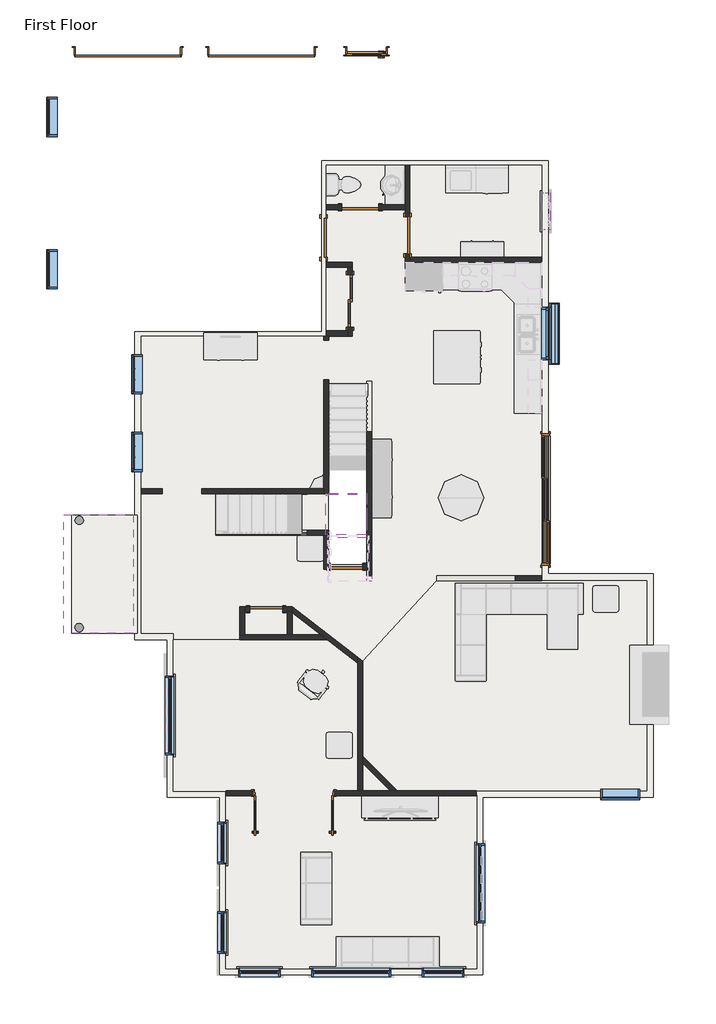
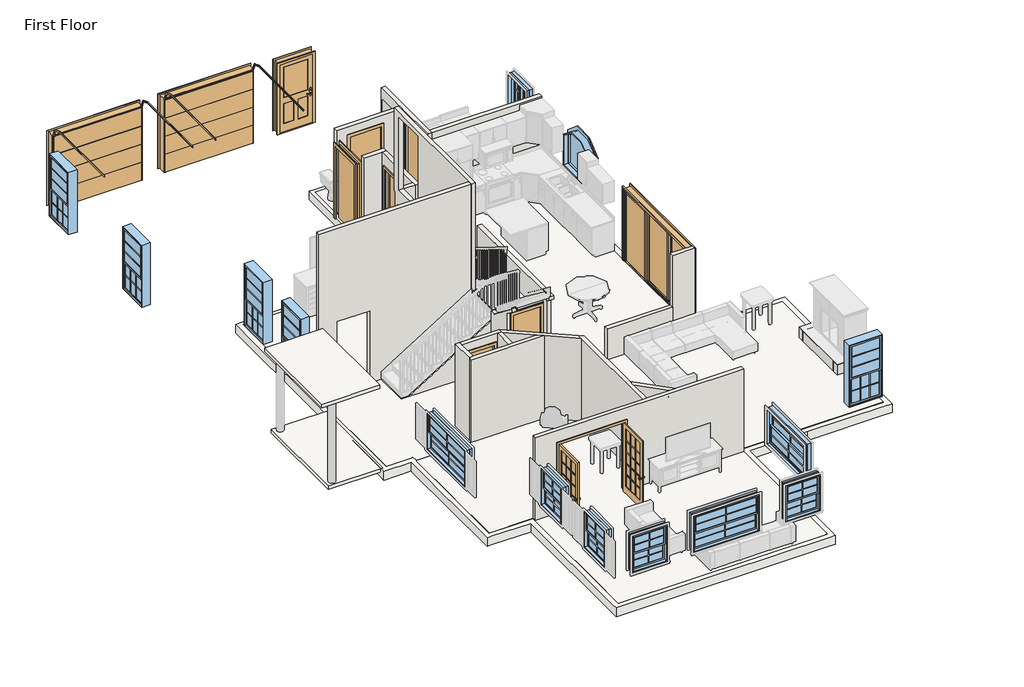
# One storey, part 1 of 3: 26 walls, 14 windows, 11 doors, 8 slabs.
"""IFC4 building model written with IfcOpenShell, lengths in millimetres."""

from ifc_helpers import new_model, si_unit, frame, origin, origin_with_axes, place, context, project, spatial, polyline, outline, extrude, faceted_brep, transform, mapped, element, save
from components import door_a3c49eca, door_e74c17d9, parametric_sliding_door_multi_panel_22902_parametric_sliding_059a3eb5, door_9bace64e, door_f2b275c1, door_214872d5, door_70e57c00, door_805e9a83, door_900f836f, window_96_lite_window_with_shutters_3850_single_hung_3x3_51791338, arched_window_1167_3_x_4_14e1a2af, window_2368842e, window_ea18a626, window_64dbae8b

model = new_model("IFC4")

# Units and contexts
model_context = context("Model", 3, world=origin())
ifc_project = project(units=[si_unit("LENGTHUNIT", "METRE", prefix="MILLI")], contexts=[model_context])

# Site, building, storey
site = spatial("IfcSite", under=ifc_project)
building = spatial("IfcBuilding", under=site)
storey = spatial("IfcBuildingStorey", under=building, Name="First Floor", Elevation=0.0)

# Doors
placement = place(None, origin())
door_shape = door_a3c49eca(model_context)
element("IfcDoor", 1, ObjectType="Door-Exterior-Single-Entry-Half Flat Glass-Wood_Clad : 36\" x 80\"", at=placement, inside=storey, context=model_context, shape_type="MappedRepresentation", body=[
    mapped(door_shape, transform((-5319.1230992, 10169.3047697, 0.0), x_axis=(1.0, 0.0, 0.0), y_axis=(0.0, 1.0, 0.0), z_axis=(0.0, 0.0, 1.0))),
])
door_2_shape = door_e74c17d9(model_context)
element("IfcDoor", 2, ObjectType="Door-Garage-Flush_Panel : 96\" x 84\"", at=placement, inside=storey, context=model_context, shape_type="MappedRepresentation", body=[
    mapped(door_2_shape, transform((-7757.5230992, 10175.6547697, 0.0), x_axis=(1.0, 0.0, 0.0), y_axis=(0.0, 1.0, 0.0), z_axis=(0.0, 0.0, 1.0))),
])
element("IfcDoor", 3, ObjectType="Door-Garage-Flush_Panel : 96\" x 84\"", at=placement, inside=storey, context=model_context, shape_type="MappedRepresentation", body=[
    mapped(door_2_shape, transform((-10856.3230992, 10175.6547697, 0.0), x_axis=(1.0, 0.0, 0.0), y_axis=(0.0, 1.0, 0.0), z_axis=(0.0, 0.0, 1.0))),
])
parametric_sliding_door_multi_panel_22902_parametric_sliding_shape = parametric_sliding_door_multi_panel_22902_parametric_sliding_059a3eb5(model_context)
element("IfcDoor", 4, ObjectType="Parametric_Sliding_Door_Multi_Panel_22902 : Parametric_Sliding_Door_Multi_Panel_22902", at=placement, inside=storey, context=model_context, shape_type="MappedRepresentation", body=[
    mapped(parametric_sliding_door_multi_panel_22902_parametric_sliding_shape, transform((-1164.6355992, 769.5922697, 0.0), x_axis=(0.0, -1.0, 0.0), y_axis=(1.0, 0.0, 0.0), z_axis=(0.0, 0.0, 1.0))),
])
door_3_shape = door_9bace64e(model_context)
element("IfcDoor", 5, ObjectType="Revit_Stock_Interior_Dbl_Doors_Static_Open_18925 : 60\" x 80\"", at=placement, inside=storey, context=model_context, shape_type="MappedRepresentation", body=[
    mapped(door_3_shape, transform((-7005.8418492, -7047.1327303, 0.0), x_axis=(-1.0, 0.0, 0.0), y_axis=(0.0, -1.0, 0.0), z_axis=(0.0, 0.0, 1.0))),
])
door_4_shape = door_f2b275c1(model_context)
element("IfcDoor", 6, ObjectType="Single-Flush : 30\" x 80\"", at=placement, inside=storey, context=model_context, shape_type="MappedRepresentation", body=[
    mapped(door_4_shape, transform((-5785.8480992, -1786.1577303, 0.0), x_axis=(1.0, 0.0, 0.0), y_axis=(0.0, 1.0, 0.0), z_axis=(0.0, 0.0, 1.0))),
])
door_5_shape = door_214872d5(model_context)
element("IfcDoor", 7, ObjectType="Single-Flush : 30\" x 84\"", at=placement, inside=storey, context=model_context, shape_type="MappedRepresentation", body=[
    mapped(door_5_shape, transform((-7649.5730992, -2771.9952303, 0.0), x_axis=(1.0, 0.0, 0.0), y_axis=(0.0, 1.0, 0.0), z_axis=(0.0, 0.0, 1.0))),
])
door_6_shape = door_70e57c00(model_context)
element("IfcDoor", 8, ObjectType="Single-Flush : 34\" x 84\"", at=placement, inside=storey, context=model_context, shape_type="MappedRepresentation", body=[
    mapped(door_6_shape, transform((-5463.5855992, 6551.3922697, 0.0), x_axis=(-1.0, 0.0, 0.0), y_axis=(0.0, -1.0, 0.0), z_axis=(0.0, 0.0, 1.0))),
])
element("IfcDoor", 9, ObjectType="Single-Flush : 34\" x 84\"", at=placement, inside=storey, context=model_context, shape_type="MappedRepresentation", body=[
    mapped(door_6_shape, transform((-4369.7980992, 5902.1047697, 0.0), x_axis=(0.0, -1.0, 0.0), y_axis=(1.0, 0.0, 0.0), z_axis=(0.0, 0.0, 1.0))),
])
door_7_shape = door_805e9a83(model_context)
element("IfcDoor", 10, ObjectType="Single-Flush : 36\" x 84\"", at=placement, inside=storey, context=model_context, shape_type="MappedRepresentation", body=[
    mapped(door_7_shape, transform((-6316.0730992, 5844.9547697, 0.0), x_axis=(0.0, 1.0, 0.0), y_axis=(-1.0, 0.0, 0.0), z_axis=(0.0, 0.0, 1.0))),
])
door_8_shape = door_900f836f(model_context)
element("IfcDoor", 11, ObjectType="Sliding-Closet : 48\" x 80\"", at=placement, inside=storey, context=model_context, shape_type="MappedRepresentation", body=[
    mapped(door_8_shape, transform((-5830.2980992, 4379.6922697, 0.0), x_axis=(0.0, -1.0, 0.0), y_axis=(1.0, 0.0, 0.0), z_axis=(0.0, 0.0, 1.0))),
])

# Slabs
element("IfcSlab", 12, ObjectType="Beige Carpet", at=placement, inside=storey, context=model_context, shape_type="SweptSolid", body=[
    extrude(outline(polyline([(1183.2769008, -2110.0077303), (1183.2769008, -6986.8077303), (-4609.0229733, -6986.8077303), (-5408.0230992, -6187.8076044), (-5408.0230992, -3978.1689749), (-3693.5230992, -2110.0077303), (1183.2769008, -2110.0077303)])), origin_with_axes(), (0.0, 0.0, 1.0), 6.35),
])
element("IfcSlab", 13, ObjectType="Beige Carpet", at=placement, inside=storey, context=model_context, shape_type="SweptSolid", body=[
    extrude(outline(polyline([(-6214.4730992, -1044.7952303), (-6263.2412574, -1044.7952303), (-6263.2412574, -93.8827303), (-6201.7730992, -93.8827303), (-6201.7730992, -82.7702303), (-5312.7730992, -82.7702303), (-5312.7730992, -1114.6452303), (-6214.4730992, -1114.6452303), (-6214.4730992, -1044.7952303)])), frame((0.0, 0.0, 1716.2859375), z_axis=(0.0, 0.0, 1.0), x_axis=(1.0, 0.0, 0.0)), (0.0, 0.0, 1.0), 6.35),
])
element("IfcSlab", 14, ObjectType="Beige Carpet", at=placement, inside=storey, context=model_context, shape_type="Brep", body=[
    faceted_brep([(-2766.4230992, -11114.3077303, 0.0), (-2779.1230992, -11114.3077303, 0.0), (-8583.0230992, -11114.3077303, 0.0), (-8583.0230992, -11101.6077303, 0.0), (-8583.0230992, -6999.5077303, 0.0), (-8751.2980992, -6999.5077303, 0.0), (-9789.5230992, -6999.5077303, 0.0), (-9802.2230992, -6999.5077303, 0.0), (-9802.2230992, -3510.1827303, 0.0), (-9802.2230992, -3483.1952303, 0.0), (-6237.2691234, -3483.1952303, 0.0), (-5522.3230992, -4034.3743834, 0.0), (-5522.3230992, -6986.8077303, 0.0), (-5522.3230992, -7088.4077303, 0.0), (-2779.1230992, -7088.4077303, 0.0), (-2766.4230992, -7088.4077303, 0.0), (-2766.4230992, -11114.3077303, 6.35), (-2766.4230992, -7088.4077303, 6.35), (-2779.1230992, -7088.4077303, 6.35), (-5522.3230992, -7088.4077303, 6.35), (-5522.3230992, -6986.8077303, 6.35), (-5522.3230992, -4034.3743834, 6.35), (-6237.2691234, -3483.1952303, 6.35), (-9802.2230992, -3483.1952303, 6.35), (-9802.2230992, -3510.1827303, 6.35), (-9802.2230992, -6999.5077303, 6.35), (-9789.5230992, -6999.5077303, 6.35), (-8751.2980992, -6999.5077303, 6.35), (-8583.0230992, -6999.5077303, 6.35), (-8583.0230992, -11101.6077303, 6.35), (-8583.0230992, -11114.3077303, 6.35), (-2779.1230992, -11114.3077303, 6.35)], [[[0, 1, 2, 3, 4, 5, 6, 7, 8, 9, 10, 11, 12, 13, 14, 15]], [[16, 17, 18, 19, 20, 21, 22, 23, 24, 25, 26, 27, 28, 29, 30, 31]], [[2, 1, 0, 16, 31, 30]], [[4, 3, 2, 30, 29, 28]], [[7, 6, 5, 4, 28, 27, 26, 25]], [[9, 8, 7, 25, 24, 23]], [[10, 9, 23, 22]], [[11, 10, 22, 21]], [[13, 12, 11, 21, 20, 19]], [[15, 14, 13, 19, 18, 17]], [[0, 15, 17, 16]]]),
])
element("IfcSlab", 15, ObjectType="Concrete Slab - 4\"", at=placement, inside=storey, context=model_context, shape_type="SweptSolid", body=[
    extrude(outline(polyline([(-12166.0105992, -3332.3827303), (-12166.0105992, -589.1827303), (-10642.0105992, -589.1827303), (-10642.0105992, -3332.3827303), (-12166.0105992, -3332.3827303)])), frame((0.0, 0.0, -101.6), z_axis=(0.0, 0.0, 1.0), x_axis=(1.0, 0.0, 0.0)), (0.0, 0.0, 1.0), 101.6),
])
element("IfcSlab", 16, ObjectType="Hardwood", at=placement, inside=storey, context=model_context, shape_type="SweptSolid", body=[
    extrude(outline(polyline([(-1255.1230992, 7522.9422697), (-1255.1230992, -1995.7077303), (-3693.5230992, -1995.7077303), (-3693.5230992, -2110.0077303), (-5408.0230992, -3978.1689749), (-6050.0639108, -3483.1952303), (-8265.5230992, -3483.1952303), (-9789.5230992, -3483.1952303), (-9789.5230992, -3329.2077303), (-10551.5230992, -3329.2077303), (-10551.5230992, 3560.5422697), (-6255.7480992, 3560.5422697), (-6255.7480992, 7522.9422697), (-1255.1230992, 7522.9422697)]), holes=[polyline([(-5198.4730992, 2457.2297697), (-6201.7730992, 2457.2297697), (-6201.7730992, -108.1702303), (-8822.2912574, -108.1702303), (-8822.2912574, -1057.4952303), (-6316.0730992, -1057.4952303), (-6316.0730992, -1843.3077303), (-5312.7730992, -1843.3077303), (-5312.7730992, -1995.7077303), (-5198.4730992, -1995.7077303), (-5198.4730992, 2457.2297697)])]), origin_with_axes(), (0.0, 0.0, 1.0), 6.35),
])
element("IfcSlab", 17, ObjectType="Siding Ceiling", at=placement, inside=storey, context=model_context, shape_type="SweptSolid", body=[
    extrude(outline(polyline([(-12343.8105992, -589.1827303), (-10732.4980992, -589.1827303), (-10732.4980992, -3332.3827303), (-12343.8105992, -3332.3827303), (-12343.8105992, -589.1827303)])), frame((0.0, 0.0, 2362.2), z_axis=(0.0, 0.0, 1.0), x_axis=(1.0, 0.0, 0.0)), (0.0, 0.0, 1.0), 101.6),
])
element("IfcSlab", 18, ObjectType="Wood Joist 10\" - No Finish", at=placement, inside=storey, context=model_context, shape_type="Brep", body=[
    faceted_brep([(-10703.9230992, 3665.3172697, -254.0), (-10551.5230992, 3665.3172697, -254.0), (-6360.5230992, 3665.3172697, -254.0), (-6360.5230992, 3681.1922697, -254.0), (-6360.5230992, 7627.7172697, -254.0), (-6255.7480992, 7627.7172697, -254.0), (-1255.1230992, 7627.7172697, -254.0), (-1102.7230992, 7627.7172697, -254.0), (-1102.7230992, -1929.0327303, -254.0), (-1102.7230992, -1957.6077303, -254.0), (1335.6769008, -1957.6077303, -254.0), (1335.6769008, -2110.0077303, -254.0), (1335.6769008, -7139.2077303, -254.0), (1183.2769008, -7139.2077303, -254.0), (-1016.9980992, -7139.2077303, -254.0), (-1164.6355992, -7139.2077303, -254.0), (-2598.1480992, -7139.2077303, -254.0), (-2626.7230992, -7139.2077303, -254.0), (-2626.7230992, -11254.0077303, -254.0), (-2779.1230992, -11254.0077303, -254.0), (-8722.7230992, -11254.0077303, -254.0), (-8722.7230992, -11101.6077303, -254.0), (-8722.7230992, -7139.2077303, -254.0), (-8751.2980992, -7139.2077303, -254.0), (-9789.5230992, -7139.2077303, -254.0), (-9941.9230992, -7139.2077303, -254.0), (-9941.9230992, -3510.1827303, -254.0), (-9941.9230992, -3481.6077303, -254.0), (-10703.9230992, -3481.6077303, -254.0), (-10703.9230992, -3329.2077303, -254.0), (-6201.7730992, -1729.0077303, -254.0), (-5312.7730992, -1729.0077303, -254.0), (-5312.7730992, 2338.1672697, -254.0), (-6201.7730992, 2338.1672697, -254.0), (-10703.9230992, 3665.3172697, 0.0), (-10703.9230992, -1198.7827303, 0.0), (-10703.9230992, -2722.7827303, 0.0), (-10703.9230992, -3329.2077303, 0.0), (-10703.9230992, -3481.6077303, 0.0), (-9941.9230992, -3481.6077303, 0.0), (-9941.9230992, -3510.1827303, 0.0), (-9941.9230992, -7139.2077303, 0.0), (-9789.5230992, -7139.2077303, 0.0), (-8751.2980992, -7139.2077303, 0.0), (-8722.7230992, -7139.2077303, 0.0), (-8722.7230992, -11101.6077303, 0.0), (-8722.7230992, -11254.0077303, 0.0), (-2779.1230992, -11254.0077303, 0.0), (-2626.7230992, -11254.0077303, 0.0), (-2626.7230992, -7139.2077303, 0.0), (-2598.1480992, -7139.2077303, 0.0), (-1164.6355992, -7139.2077303, 0.0), (-1016.9980992, -7139.2077303, 0.0), (1183.2769008, -7139.2077303, 0.0), (1335.6769008, -7139.2077303, 0.0), (1335.6769008, -2110.0077303, 0.0), (1335.6769008, -1957.6077303, 0.0), (-1102.7230992, -1957.6077303, 0.0), (-1102.7230992, -1929.0327303, 0.0), (-1102.7230992, -1754.4077303, 0.0), (-1102.7230992, 1293.5922697, 0.0), (-1102.7230992, 7627.7172697, 0.0), (-1255.1230992, 7627.7172697, 0.0), (-6255.7480992, 7627.7172697, 0.0), (-6360.5230992, 7627.7172697, 0.0), (-6360.5230992, 6302.1547697, 0.0), (-6360.5230992, 5387.7547697, 0.0), (-6360.5230992, 3681.1922697, 0.0), (-6360.5230992, 3665.3172697, 0.0), (-10551.5230992, 3665.3172697, 0.0), (-6201.7730992, -1729.0077303, 0.0), (-6201.7730992, 2338.1672697, 0.0), (-5312.7730992, 2338.1672697, 0.0), (-5312.7730992, -1729.0077303, 0.0), (-1102.7230992, 7627.7172697, -152.4)], [[[0, 1, 2, 3, 4, 5, 6, 7, 8, 9, 10, 11, 12, 13, 14, 15, 16, 17, 18, 19, 20, 21, 22, 23, 24, 25, 26, 27, 28, 29], [30, 31, 32, 33]], [[34, 35, 36, 37, 38, 39, 40, 41, 42, 43, 44, 45, 46, 47, 48, 49, 50, 51, 52, 53, 54, 55, 56, 57, 58, 59, 60, 61, 62, 63, 64, 65, 66, 67, 68, 69], [70, 71, 72, 73]], [[2, 1, 0, 34, 69, 68]], [[4, 3, 2, 68, 67, 66, 65, 64]], [[7, 6, 5, 4, 64, 63, 62, 61, 74]], [[9, 8, 7, 74, 61, 60, 59, 58, 57]], [[10, 9, 57, 56]], [[12, 11, 10, 56, 55, 54]], [[14, 13, 12, 54, 53, 52]], [[17, 16, 15, 14, 52, 51, 50, 49]], [[18, 17, 49, 48]], [[20, 19, 18, 48, 47, 46]], [[22, 21, 20, 46, 45, 44]], [[25, 24, 23, 22, 44, 43, 42, 41]], [[27, 26, 25, 41, 40, 39]], [[28, 27, 39, 38]], [[0, 29, 28, 38, 37, 36, 35, 34]], [[31, 30, 70, 73]], [[32, 31, 73, 72]], [[33, 32, 72, 71]], [[30, 33, 71, 70]]]),
])
element("IfcSlab", 19, ObjectType="Wood Joist 6\" - No Finish 2", at=placement, inside=storey, context=model_context, shape_type="SweptSolid", body=[
    extrude(outline(polyline([(-6201.7730992, -133.5702303), (-6201.7730992, -101.8202303), (-5312.7730992, -101.8202303), (-5312.7730992, -1044.7952303), (-6263.2412574, -1044.7952303), (-6263.2412574, -133.5702303), (-6201.7730992, -133.5702303)])), frame((0.0, 0.0, 1563.9142857), z_axis=(0.0, 0.0, 1.0), x_axis=(1.0, 0.0, 0.0)), (0.0, 0.0, 1.0), 152.4),
])

# Walls
element("IfcWall", 20, ObjectType="Interior - 4 1/2\" Partition", at=placement, inside=storey, context=model_context, shape_type="Brep", body=[
    faceted_brep([(-4426.9480992, 5470.3047697, 2133.6), (-4426.9480992, 5470.3047697, 0.0), (-4426.9480992, 5275.0422697, 0.0), (-4426.9480992, 5275.0422697, 2438.4), (-4426.9480992, 6494.2422697, 2438.4), (-4426.9480992, 6608.5422697, 2438.4), (-4426.9480992, 7522.9422697, 2438.4), (-4426.9480992, 7522.9422697, 0.0), (-4426.9480992, 6608.5422697, 0.0), (-4426.9480992, 6494.2422697, 0.0), (-4426.9480992, 6333.9047697, 0.0), (-4426.9480992, 6333.9047697, 2133.6), (-4312.6480992, 5275.0422697, 0.0), (-4312.6480992, 5389.3422697, 0.0), (-4312.6480992, 5470.3047697, 0.0), (-4312.6480992, 5470.3047697, 2133.6), (-4312.6480992, 6333.9047697, 2133.6), (-4312.6480992, 6333.9047697, 0.0), (-4312.6480992, 7522.9422697, 0.0), (-4312.6480992, 7522.9422697, 2438.4), (-4312.6480992, 5389.3422697, 2438.4), (-4312.6480992, 5275.0422697, 2438.4)], [[[0, 1, 2, 3, 4, 5, 6, 7, 8, 9, 10, 11]], [[12, 13, 14, 15, 16, 17, 18, 19, 20, 21]], [[2, 1, 14, 13, 12]], [[10, 9, 8, 7, 18, 17]], [[6, 5, 4, 3, 21, 20, 19]], [[7, 6, 19, 18]], [[3, 2, 12, 21]], [[15, 14, 1, 0]], [[16, 15, 0, 11]], [[17, 16, 11, 10]]]),
])
element("IfcWall", 21, ObjectType="Interior - 4 1/2\" Partition", at=placement, inside=storey, context=model_context, shape_type="SweptSolid", body=[
    extrude(outline(polyline([(-1255.1230992, 5275.0422697), (-4312.6480992, 5275.0422697), (-4312.6480992, 5389.3422697), (-1255.1230992, 5389.3422697), (-1255.1230992, 5275.0422697)])), origin_with_axes(), (0.0, 0.0, 1.0), 2438.4),
])
element("IfcWall", 22, ObjectType="Interior - 4 1/2\" Partition", at=placement, inside=storey, context=model_context, shape_type="SweptSolid", body=[
    extrude(outline(polyline([(0.0, -6255.7480992), (0.0, -5895.3855992), (2133.6, -5895.3855992), (2133.6, -5031.7855992), (0.0, -5031.7855992), (0.0, -4426.9480992), (2438.4, -4426.9480992), (2438.4, -6255.7480992), (0.0, -6255.7480992)])), frame((0.0, 6494.2422697, 0.0), z_axis=(0.0, 1.0, 0.0), x_axis=(0.0, 0.0, 1.0)), (0.0, 0.0, 1.0), 114.3),
])
element("IfcWall", 23, ObjectType="Interior - 4 1/2\" Partition", at=placement, inside=storey, context=model_context, shape_type="Brep", body=[
    faceted_brep([(-6255.7480992, 5160.7422697, 0.0), (-5760.4480992, 5160.7422697, 0.0), (-5646.1480992, 5160.7422697, 0.0), (-5646.1480992, 5160.7422697, 2438.4), (-5760.4480992, 5160.7422697, 2438.4), (-6255.7480992, 5160.7422697, 2438.4), (-6255.7480992, 5275.0422697, 0.0), (-6255.7480992, 5275.0422697, 2438.4), (-5646.1480992, 5275.0422697, 2438.4), (-5646.1480992, 5275.0422697, 0.0)], [[[0, 1, 2, 3, 4, 5]], [[6, 7, 8, 9]], [[2, 1, 0, 6, 9]], [[5, 4, 3, 8, 7]], [[0, 5, 7, 6]], [[3, 2, 9, 8]]]),
])
element("IfcWall", 24, ObjectType="Interior - 4 1/2\" Partition", at=placement, inside=storey, context=model_context, shape_type="Brep", body=[
    faceted_brep([(-5760.4480992, 3560.5422697, 2438.4), (-5760.4480992, 3681.1922697, 2438.4), (-5760.4480992, 5160.7422697, 2438.4), (-5760.4480992, 5160.7422697, 0.0), (-5760.4480992, 4989.2922697, 0.0), (-5760.4480992, 4989.2922697, 2032.0), (-5760.4480992, 3770.0922697, 2032.0), (-5760.4480992, 3770.0922697, 0.0), (-5760.4480992, 3681.1922697, 0.0), (-5760.4480992, 3560.5422697, 0.0), (-5646.1480992, 5160.7422697, 2438.4), (-5646.1480992, 3560.5422697, 2438.4), (-5646.1480992, 3560.5422697, 0.0), (-5646.1480992, 3770.0922697, 0.0), (-5646.1480992, 3770.0922697, 2032.0), (-5646.1480992, 4989.2922697, 2032.0), (-5646.1480992, 4989.2922697, 0.0), (-5646.1480992, 5160.7422697, 0.0)], [[[0, 1, 2, 3, 4, 5, 6, 7, 8, 9]], [[10, 11, 12, 13, 14, 15, 16, 17]], [[3, 17, 16, 4]], [[12, 9, 8, 7, 13]], [[2, 1, 0, 11, 10]], [[3, 2, 10, 17]], [[0, 9, 12, 11]], [[6, 14, 13, 7]], [[14, 6, 5, 15]], [[15, 5, 4, 16]]]),
])
element("IfcWall", 25, ObjectType="Interior - 4 1/2\" Partition", at=placement, inside=storey, context=model_context, shape_type="Brep", body=[
    faceted_brep([(-6316.0730992, 2554.0672697, 2133.6), (-6316.0730992, 2554.0672697, 0.0), (-6316.0730992, 20.4172697, 0.0), (-6316.0730992, -93.8827303, 0.0), (-6316.0730992, -93.8827303, 4876.8), (-6316.0730992, 20.4172697, 4876.8), (-6316.0730992, 3484.3422697, 4876.8), (-6316.0730992, 3598.6422697, 4876.8), (-6316.0730992, 3620.8672697, 4876.8), (-6316.0730992, 3620.8672697, 2590.8), (-6316.0730992, 3620.8672697, 2438.4), (-6316.0730992, 3560.5422697, 2438.4), (-6316.0730992, 3560.5422697, 0.0), (-6316.0730992, 3468.4672697, 0.0), (-6316.0730992, 3468.4672697, 2133.6), (-6316.0730992, 2474.6922697, 2590.8), (-6316.0730992, 3389.0922697, 2590.8), (-6316.0730992, 3389.0922697, 4724.4), (-6316.0730992, 2474.6922697, 4724.4), (-6201.7730992, -93.8827303, 0.0), (-6201.7730992, 2554.0672697, 0.0), (-6201.7730992, 2554.0672697, 2133.6), (-6201.7730992, 3468.4672697, 2133.6), (-6201.7730992, 3468.4672697, 0.0), (-6201.7730992, 3560.5422697, 0.0), (-6201.7730992, 3560.5422697, 2438.4), (-6201.7730992, 3620.8672697, 2438.4), (-6201.7730992, 3620.8672697, 2590.8), (-6201.7730992, 3620.8672697, 4876.8), (-6201.7730992, -93.8827303, 4876.8), (-6201.7730992, 2474.6922697, 2590.8), (-6201.7730992, 2474.6922697, 4724.4), (-6201.7730992, 3389.0922697, 4724.4), (-6201.7730992, 3389.0922697, 2590.8), (-6255.7480992, 3560.5422697, 0.0), (-6255.7480992, 3560.5422697, 2438.4)], [[[0, 1, 2, 3, 4, 5, 6, 7, 8, 9, 10, 11, 12, 13, 14], [15, 16, 17, 18]], [[19, 20, 21, 22, 23, 24, 25, 26, 27, 28, 29], [30, 31, 32, 33]], [[13, 12, 34, 24, 23]], [[3, 2, 1, 20, 19]], [[4, 3, 19, 29]], [[10, 9, 8, 28, 27, 26]], [[10, 26, 25, 35, 11]], [[12, 11, 35, 25, 24, 34]], [[8, 7, 6, 5, 4, 29, 28]], [[16, 15, 30, 33]], [[17, 16, 33, 32]], [[18, 17, 32, 31]], [[15, 18, 31, 30]], [[23, 22, 14, 13]], [[21, 20, 1, 0]], [[22, 21, 0, 14]]]),
])
element("IfcWall", 26, ObjectType="Interior - 4 1/2\" Partition", at=placement, inside=storey, context=model_context, shape_type="SweptSolid", body=[
    extrude(outline(polyline([(2133.6, -9143.4105992), (0.0, -9143.4105992), (0.0, -6316.0730992), (4876.8, -6316.0730992), (4876.8, -10551.5230992), (0.0, -10551.5230992), (0.0, -10057.8105992), (2133.6, -10057.8105992), (2133.6, -9143.4105992)])), frame((0.0, -93.8827303, 0.0), z_axis=(0.0, 1.0, 0.0), x_axis=(0.0, 0.0, 1.0)), (0.0, 0.0, 1.0), 114.3),
])
element("IfcWall", 27, ObjectType="Interior - 4 1/2\" Partition", at=placement, inside=storey, context=model_context, shape_type="Brep", body=[
    faceted_brep([(-8265.5230992, -3483.1952303, 0.0), (-6237.2691234, -3483.1952303, 0.0), (-6237.2691234, -3483.1952303, 2438.4), (-8265.5230992, -3483.1952303, 2438.4), (-8265.5230992, -3368.8952303, 0.0), (-8265.5230992, -3368.8952303, 2438.4), (-8151.2230992, -3368.8952303, 2438.4), (-7160.6230992, -3368.8952303, 2438.4), (-7046.3230992, -3368.8952303, 2438.4), (-6385.5300475, -3368.8952303, 2438.4), (-6385.5300475, -3368.8952303, 0.0), (-7046.3230992, -3368.8952303, 0.0), (-7160.6230992, -3368.8952303, 0.0), (-8151.2230992, -3368.8952303, 0.0)], [[[0, 1, 2, 3]], [[4, 5, 6, 7, 8, 9, 10, 11, 12, 13]], [[1, 0, 4, 13, 12, 11, 10]], [[3, 2, 9, 8, 7, 6, 5]], [[0, 3, 5, 4]], [[2, 1, 10, 9]]]),
])
element("IfcWall", 28, ObjectType="Interior - 4 1/2\" Partition", at=placement, inside=storey, context=model_context, shape_type="Brep", body=[
    faceted_brep([(-2779.1230992, -7101.1077303, 2438.4), (-8570.3230992, -7101.1077303, 2438.4), (-8570.3230992, -7101.1077303, 6.35), (-7945.6418492, -7101.1077303, 6.35), (-7945.6418492, -7101.1077303, 2057.4), (-6066.0418492, -7101.1077303, 2057.4), (-6066.0418492, -7101.1077303, 6.35), (-2779.1230992, -7101.1077303, 6.35), (-8570.3230992, -6986.8077303, 2438.4), (-5522.3230992, -6986.8077303, 2438.4), (-5408.0230992, -6986.8077303, 2438.4), (-4770.6675834, -6986.8077303, 2438.4), (-4609.0229733, -6986.8077303, 2438.4), (-2779.1230992, -6986.8077303, 2438.4), (-2779.1230992, -6986.8077303, 0.0), (-4609.0229733, -6986.8077303, 0.0), (-4770.6675834, -6986.8077303, 0.0), (-5408.0230992, -6986.8077303, 0.0), (-5522.3230992, -6986.8077303, 0.0), (-5522.3230992, -6986.8077303, 6.35), (-6066.0418492, -6986.8077303, 6.35), (-6066.0418492, -6986.8077303, 2057.4), (-7945.6418492, -6986.8077303, 2057.4), (-7945.6418492, -6986.8077303, 6.35), (-8570.3230992, -6986.8077303, 6.35), (-2779.1230992, -7088.4077303, 0.0), (-5522.3230992, -7088.4077303, 0.0), (-2779.1230992, -7088.4077303, 6.35), (-5522.3230992, -7088.4077303, 6.35)], [[[0, 1, 2, 3, 4, 5, 6, 7]], [[8, 9, 10, 11, 12, 13, 14, 15, 16, 17, 18, 19, 20, 21, 22, 23, 24]], [[18, 17, 16, 15, 14, 25, 26]], [[1, 0, 13, 12, 11, 10, 9, 8]], [[14, 13, 0, 7, 27, 25]], [[1, 8, 24, 2]], [[22, 4, 3, 23]], [[4, 22, 21, 5]], [[5, 21, 20, 6]], [[3, 2, 24, 23]], [[19, 28, 27, 7, 6, 20]], [[26, 28, 19, 18]], [[28, 26, 25, 27]]]),
])
element("IfcWall", 29, ObjectType="Interior - 4 1/2\" Partition", at=placement, inside=storey, context=model_context, shape_type="Brep", body=[
    faceted_brep([(-1255.1230992, -1995.7077303, 0.0), (-1864.7230992, -1995.7077303, 0.0), (-1864.7230992, -1995.7077303, 914.4), (-1864.7230992, -1995.7077303, 2438.4), (-1255.1230992, -1995.7077303, 2438.4), (-1255.1230992, -2110.0077303, 0.0), (-1255.1230992, -2110.0077303, 2438.4), (-1864.7230992, -2110.0077303, 2438.4), (-1864.7230992, -2110.0077303, 914.4), (-1864.7230992, -2110.0077303, 0.0)], [[[0, 1, 2, 3, 4]], [[5, 6, 7, 8, 9]], [[0, 4, 6, 5]], [[1, 0, 5, 9]], [[3, 2, 1, 9, 8, 7]], [[4, 3, 7, 6]]]),
])
element("IfcWall", 30, ObjectType="Interior - 4 1/2\" Partition", at=placement, inside=storey, context=model_context, shape_type="Brep", body=[
    faceted_brep([(-5312.7730992, 2519.1422697, 0.0), (-5312.7730992, -1729.0077303, 0.0), (-5312.7730992, -1843.3077303, 0.0), (-5312.7730992, -1995.7077303, 0.0), (-5312.7730992, -1995.7077303, 2232.421875), (-5312.7730992, -1995.7077303, 2438.4), (-5312.7730992, 1339.6297697, 2438.4), (-5312.7730992, 1339.6297697, 927.9216617), (-5312.7730992, 2519.1422697, 242.1216617), (-5198.4730992, 2519.1422697, 0.0), (-5198.4730992, 2519.1422697, 242.1216617), (-5198.4730992, 1339.6297697, 927.9216617), (-5198.4730992, 1339.6297697, 2438.4), (-5198.4730992, -1995.7077303, 2438.4), (-5198.4730992, -1995.7077303, 2232.421875), (-5198.4730992, -1995.7077303, 0.0)], [[[0, 1, 2, 3, 4, 5, 6, 7, 8]], [[9, 10, 11, 12, 13, 14, 15]], [[3, 2, 1, 0, 9, 15]], [[5, 4, 3, 15, 14, 13]], [[6, 5, 13, 12]], [[0, 8, 10, 9]], [[7, 6, 12, 11]], [[8, 7, 11, 10]]]),
])
element("IfcWall", 31, ObjectType="Interior - 4 1/2\" Partition", at=placement, inside=storey, context=model_context, shape_type="Brep", body=[
    faceted_brep([(-6201.7730992, -1057.4952303, 0.0), (-6201.7730992, -1057.4952303, 1505.6330284), (-8617.0594155, -1057.4952303, 0.0), (-6316.0730992, -1057.4952303, 0.0), (-6201.7730992, -943.1952303, 0.0), (-8617.0594155, -943.1952303, 0.0), (-6201.7730992, -943.1952303, 1505.6330284)], [[[0, 1, 2, 3]], [[4, 5, 6]], [[1, 0, 4, 6]], [[0, 3, 2, 5, 4]], [[2, 1, 6, 5]]]),
])
element("IfcWall", 32, ObjectType="Interior - 4 1/2\" Partition", at=placement, inside=storey, context=model_context, shape_type="Brep", body=[
    faceted_brep([(-8151.2230992, -3368.8952303, 0.0), (-8151.2230992, -2829.1452303, 0.0), (-8151.2230992, -2714.8452303, 0.0), (-8151.2230992, -2714.8452303, 2438.4), (-8151.2230992, -2829.1452303, 2438.4), (-8151.2230992, -3368.8952303, 2438.4), (-8265.5230992, -3368.8952303, 0.0), (-8265.5230992, -3368.8952303, 2438.4), (-8265.5230992, -2714.8452303, 2438.4), (-8265.5230992, -2714.8452303, 0.0)], [[[0, 1, 2, 3, 4, 5]], [[6, 7, 8, 9]], [[2, 1, 0, 6, 9]], [[5, 4, 3, 8, 7]], [[0, 5, 7, 6]], [[3, 2, 9, 8]]]),
])
element("IfcWall", 33, ObjectType="Interior - 4 1/2\" Partition", at=placement, inside=storey, context=model_context, shape_type="Brep", body=[
    faceted_brep([(-7268.5730992, -2829.1452303, 2133.6), (-7268.5730992, -2829.1452303, 0.0), (-7160.6230992, -2829.1452303, 0.0), (-7046.3230992, -2829.1452303, 0.0), (-7046.3230992, -2829.1452303, 2438.4), (-7160.6230992, -2829.1452303, 2438.4), (-8151.2230992, -2829.1452303, 2438.4), (-8151.2230992, -2829.1452303, 0.0), (-8030.5730992, -2829.1452303, 0.0), (-8030.5730992, -2829.1452303, 2133.6), (-7046.3230992, -2714.8452303, 0.0), (-7268.5730992, -2714.8452303, 0.0), (-7268.5730992, -2714.8452303, 2133.6), (-8030.5730992, -2714.8452303, 2133.6), (-8030.5730992, -2714.8452303, 0.0), (-8151.2230992, -2714.8452303, 0.0), (-8151.2230992, -2714.8452303, 2438.4), (-7046.3230992, -2714.8452303, 2438.4), (-7046.3230992, -2715.1410317, 0.0), (-7046.3230992, -2715.1410317, 2438.4)], [[[0, 1, 2, 3, 4, 5, 6, 7, 8, 9]], [[10, 11, 12, 13, 14, 15, 16, 17]], [[8, 7, 15, 14]], [[3, 2, 1, 11, 10, 18]], [[6, 5, 4, 19, 17, 16]], [[7, 6, 16, 15]], [[4, 3, 18, 10, 17, 19]], [[12, 11, 1, 0]], [[13, 12, 0, 9]], [[14, 13, 9, 8]]]),
])
element("IfcWall", 34, ObjectType="Interior - 4 1/2\" Partition", at=placement, inside=storey, context=model_context, shape_type="Brep", body=[
    faceted_brep([(-7160.6230992, -2829.1452303, 0.0), (-7160.6230992, -3368.8952303, 0.0), (-7160.6230992, -3368.8952303, 2438.4), (-7160.6230992, -2829.1452303, 2438.4), (-7046.3230992, -2829.1452303, 0.0), (-7046.3230992, -2829.1452303, 2438.4), (-7046.3230992, -2859.4646687, 2438.4), (-7046.3230992, -3368.8952303, 2438.4), (-7046.3230992, -3368.8952303, 0.0), (-7046.3230992, -2859.4646687, 0.0)], [[[0, 1, 2, 3]], [[4, 5, 6, 7, 8, 9]], [[1, 0, 4, 9, 8]], [[3, 2, 7, 6, 5]], [[2, 1, 8, 7]], [[0, 3, 5, 4]]]),
])
element("IfcWall", 35, ObjectType="Interior - 4 1/2\" Partition", at=placement, inside=storey, context=model_context, shape_type="Brep", body=[
    faceted_brep([(-5408.0230992, -6986.8077303, 0.0), (-5408.0230992, -6349.4522146, 0.0), (-5408.0230992, -6187.8076044, 0.0), (-5408.0230992, -3978.1689749, 0.0), (-5408.0230992, -3978.1689749, 2438.4), (-5408.0230992, -6187.8076044, 2438.4), (-5408.0230992, -6349.4522146, 2438.4), (-5408.0230992, -6986.8077303, 2438.4), (-5522.3230992, -6986.8077303, 0.0), (-5522.3230992, -6986.8077303, 6.35), (-5522.3230992, -6986.8077303, 2438.4), (-5522.3230992, -4034.3743834, 2438.4), (-5522.3230992, -3890.0507463, 2438.4), (-5522.3230992, -3890.0507463, 0.0), (-5522.3230992, -4034.3743834, 0.0)], [[[0, 1, 2, 3, 4, 5, 6, 7]], [[8, 9, 10, 11, 12, 13, 14]], [[3, 2, 1, 0, 8, 14, 13]], [[7, 6, 5, 4, 12, 11, 10]], [[0, 7, 10, 9, 8]], [[4, 3, 13, 12]]]),
])
element("IfcWall", 36, ObjectType="Interior - 4 1/2\" Partition", at=placement, inside=storey, context=model_context, shape_type="Brep", body=[
    faceted_brep([(-7046.3230992, -2859.4646687, 0.0), (-6385.5300475, -3368.8952303, 0.0), (-6237.2691234, -3483.1952303, 0.0), (-5522.3230992, -4034.3743834, 0.0), (-5522.3230992, -4034.3743834, 2438.4), (-6237.2691234, -3483.1952303, 2438.4), (-6385.5300475, -3368.8952303, 2438.4), (-7046.3230992, -2859.4646687, 2438.4), (-7046.3230992, -2715.1410317, 0.0), (-7046.3230992, -2715.1410317, 2438.4), (-5522.3230992, -3890.0507463, 2438.4), (-5522.3230992, -3890.0507463, 0.0), (-7046.3230992, -2829.1452303, 0.0), (-7046.3230992, -2829.1452303, 2438.4)], [[[0, 1, 2, 3, 4, 5, 6, 7]], [[8, 9, 10, 11]], [[3, 2, 1, 0, 12, 8, 11]], [[7, 6, 5, 4, 10, 9, 13]], [[4, 3, 11, 10]], [[0, 7, 13, 9, 8, 12]]]),
])
element("IfcWall", 37, ObjectType="Interior - 4 1/2\" Partition", at=placement, inside=storey, context=model_context, shape_type="Brep", body=[
    faceted_brep([(-6316.0730992, -1057.4952303, 0.0), (-6316.0730992, -1843.3077303, 0.0), (-6316.0730992, -1843.3077303, 2118.121875), (-6316.0730992, -2086.1952303, 2300.2875), (-6316.0730992, -2086.1952303, 2413.0), (-6316.0730992, -2048.0952303, 2413.0), (-6316.0730992, -2048.0952303, 2358.628125), (-6316.0730992, -1200.105647, 1722.6359375), (-6316.0730992, -1057.4952303, 1722.6359375), (-6201.7730992, -1057.4952303, 0.0), (-6201.7730992, -1057.4952303, 1505.6330284), (-6201.7730992, -1057.4952303, 1722.6359375), (-6201.7730992, -1200.105647, 1722.6359375), (-6201.7730992, -2048.0952303, 2358.628125), (-6201.7730992, -2048.0952303, 2413.0), (-6201.7730992, -2086.1952303, 2413.0), (-6201.7730992, -2086.1952303, 2300.2875), (-6201.7730992, -1843.3077303, 2118.121875), (-6201.7730992, -1843.3077303, 0.0), (-6201.7730992, -1729.0077303, 0.0)], [[[0, 1, 2, 3, 4, 5, 6, 7, 8]], [[9, 10, 11, 12, 13, 14, 15, 16, 17, 18, 19]], [[0, 8, 11, 10, 9]], [[1, 0, 9, 19, 18]], [[8, 7, 12, 11]], [[7, 6, 13, 12]], [[3, 2, 17, 16]], [[4, 3, 16, 15]], [[2, 1, 18, 17]], [[5, 4, 15, 14]], [[6, 5, 14, 13]]]),
])
element("IfcWall", 38, ObjectType="Interior - 4 1/2\" Partition", at=placement, inside=storey, context=model_context, shape_type="SweptSolid", body=[
    extrude(outline(polyline([(-4770.6675834, -6986.8077303), (-5408.0230992, -6349.4522146), (-5408.0230992, -6187.8076044), (-4609.0229733, -6986.8077303), (-4770.6675834, -6986.8077303)])), origin_with_axes(), (0.0, 0.0, 1.0), 2438.4),
])
element("IfcWall", 39, ObjectType="Interior - 4 1/2\" Partition", at=placement, inside=storey, context=model_context, shape_type="Brep", body=[
    faceted_brep([(-5312.7730992, -1729.0077303, 0.0), (-5404.8480992, -1729.0077303, 0.0), (-5404.8480992, -1729.0077303, 2032.0), (-6166.8480992, -1729.0077303, 2032.0), (-6166.8480992, -1729.0077303, 0.0), (-6201.7730992, -1729.0077303, 0.0), (-6201.7730992, -1729.0077303, 2120.9), (-5312.7730992, -1729.0077303, 2120.9), (-5404.8480992, -1843.3077303, 2032.0), (-5404.8480992, -1843.3077303, 0.0), (-5312.7730992, -1843.3077303, 0.0), (-5312.7730992, -1843.3077303, 2120.9), (-6201.7730992, -1843.3077303, 2120.9), (-6201.7730992, -1843.3077303, 2118.121875), (-6201.7730992, -1843.3077303, 0.0), (-6166.8480992, -1843.3077303, 0.0), (-6166.8480992, -1843.3077303, 2032.0)], [[[0, 1, 2, 3, 4, 5, 6, 7]], [[8, 9, 10, 11, 12, 13, 14, 15, 16]], [[0, 7, 11, 10]], [[15, 14, 5, 4]], [[10, 9, 1, 0]], [[7, 6, 12, 11]], [[5, 14, 13, 12, 6]], [[2, 1, 9, 8]], [[3, 2, 8, 16]], [[4, 3, 16, 15]]]),
])
element("IfcWall", 40, ObjectType="Interior - 4 1/2\" Partition", at=placement, inside=storey, context=model_context, shape_type="SweptSolid", body=[
    extrude(outline(polyline([(-3693.5230992, -1995.7077303), (-1864.7230992, -1995.7077303), (-1864.7230992, -2110.0077303), (-3693.5230992, -2110.0077303), (-3693.5230992, -1995.7077303)])), origin_with_axes(), (0.0, 0.0, 1.0), 914.4),
])
element("IfcWall", 41, ObjectType="Interior - 4 1/2\" Partition", at=placement, inside=storey, context=model_context, shape_type="SweptSolid", body=[
    extrude(outline(polyline([(-1995.7077303, 2232.421875), (-2130.6452303, 2333.625), (-2130.6452303, 2438.4), (-1995.7077303, 2438.4), (-1995.7077303, 2232.421875)])), frame((-5312.7730992, 0.0, 0.0), z_axis=(1.0, 0.0, 0.0), x_axis=(0.0, 1.0, 0.0)), (0.0, 0.0, 1.0), 114.3),
])
element("IfcWall", 42, ObjectType="Interior - 4 3/4\" Partition (1-hr)", at=placement, inside=storey, context=model_context, shape_type="Brep", body=[
    faceted_brep([(-6255.7480992, 3560.5422697, 0.0), (-6201.7730992, 3560.5422697, 0.0), (-5760.4480992, 3560.5422697, 0.0), (-5760.4480992, 3560.5422697, 2438.4), (-6201.7730992, 3560.5422697, 2438.4), (-6255.7480992, 3560.5422697, 2438.4), (-6255.7480992, 3681.1922697, 0.0), (-6255.7480992, 3681.1922697, 2438.4), (-5760.4480992, 3681.1922697, 2438.4), (-5760.4480992, 3681.1922697, 0.0)], [[[0, 1, 2, 3, 4, 5]], [[6, 7, 8, 9]], [[2, 1, 0, 6, 9]], [[5, 4, 3, 8, 7]], [[3, 2, 9, 8]], [[0, 5, 7, 6]]]),
])
element("IfcWall", 43, ObjectType="Stone Siding", at=placement, inside=storey, context=model_context, shape_type="Brep", body=[
    faceted_brep([(1183.2769008, -5259.6077303, 0.0), (964.2019008, -5259.6077303, 0.0), (783.2269008, -5259.6077303, 0.0), (783.2269008, -5259.6077303, 311.15), (964.2019008, -5259.6077303, 311.15), (1183.2769008, -5259.6077303, 311.15), (1183.2769008, -5440.5827303, 0.0), (1183.2769008, -5440.5827303, 311.15), (783.2269008, -5440.5827303, 311.15), (783.2269008, -5440.5827303, 0.0)], [[[0, 1, 2, 3, 4, 5]], [[6, 7, 8, 9]], [[2, 1, 0, 6, 9]], [[5, 4, 3, 8, 7]], [[0, 5, 7, 6]], [[3, 2, 9, 8]]]),
])
element("IfcWall", 44, ObjectType="Stone Siding", at=placement, inside=storey, context=model_context, shape_type="SweptSolid", body=[
    extrude(outline(polyline([(964.2019008, -3792.7577303), (964.2019008, -5259.6077303), (783.2269008, -5259.6077303), (783.2269008, -3792.7577303), (964.2019008, -3792.7577303)])), origin_with_axes(), (0.0, 0.0, 1.0), 311.15),
])
element("IfcWall", 45, ObjectType="Stone Siding", at=placement, inside=storey, context=model_context, shape_type="Brep", body=[
    faceted_brep([(783.2269008, -3792.7577303, 0.0), (964.2019008, -3792.7577303, 0.0), (1183.2769008, -3792.7577303, 0.0), (1183.2769008, -3792.7577303, 311.15), (964.2019008, -3792.7577303, 311.15), (783.2269008, -3792.7577303, 311.15), (783.2269008, -3611.7827303, 0.0), (783.2269008, -3611.7827303, 311.15), (1183.2769008, -3611.7827303, 311.15), (1183.2769008, -3611.7827303, 0.0)], [[[0, 1, 2, 3, 4, 5]], [[6, 7, 8, 9]], [[2, 1, 0, 6, 9]], [[5, 4, 3, 8, 7]], [[0, 5, 7, 6]], [[3, 2, 9, 8]]]),
])

# Windows
window_96_lite_window_with_shutters_3850_single_hung_3x3_shape = window_96_lite_window_with_shutters_3850_single_hung_3x3_51791338(model_context)
element("IfcWindow", 46, ObjectType="96_Lite_Window_with_Shutters_3850 : SINGLE HUNG 3x3", at=placement, inside=storey, context=model_context, shape_type="MappedRepresentation", body=[
    mapped(window_96_lite_window_with_shutters_3850_single_hung_3x3_shape, transform((568.9144008, -7077.2952303, 50.8), x_axis=(-1.0, 0.0, 0.0), y_axis=(0.0, -1.0, 0.0), z_axis=(0.0, 0.0, 1.0))),
])
element("IfcWindow", 47, ObjectType="96_Lite_Window_with_Shutters_3850 : SINGLE HUNG 9/6 LITE", at=placement, inside=storey, context=model_context, shape_type="MappedRepresentation", body=[
    mapped(window_96_lite_window_with_shutters_3850_single_hung_3x3_shape, transform((-12623.2105992, 8648.4797697, 304.8), x_axis=(0.0, 1.0, 0.0), y_axis=(-1.0, 0.0, 0.0), z_axis=(0.0, 0.0, 1.0))),
])
element("IfcWindow", 48, ObjectType="96_Lite_Window_with_Shutters_3850 : SINGLE HUNG 9/6 LITE", at=placement, inside=storey, context=model_context, shape_type="MappedRepresentation", body=[
    mapped(window_96_lite_window_with_shutters_3850_single_hung_3x3_shape, transform((-12623.2105992, 5114.7047697, 304.8), x_axis=(0.0, 1.0, 0.0), y_axis=(-1.0, 0.0, 0.0), z_axis=(0.0, 0.0, 1.0))),
])
element("IfcWindow", 49, ObjectType="96_Lite_Window_with_Shutters_3850 : SINGLE HUNG 9/6 LITE", at=placement, inside=storey, context=model_context, shape_type="MappedRepresentation", body=[
    mapped(window_96_lite_window_with_shutters_3850_single_hung_3x3_shape, transform((-10642.0105992, 2676.3047697, 0.0), x_axis=(0.0, 1.0, 0.0), y_axis=(-1.0, 0.0, 0.0), z_axis=(0.0, 0.0, 1.0))),
])
element("IfcWindow", 50, ObjectType="96_Lite_Window_with_Shutters_3850 : SINGLE HUNG 9/6 LITE", at=placement, inside=storey, context=model_context, shape_type="MappedRepresentation", body=[
    mapped(window_96_lite_window_with_shutters_3850_single_hung_3x3_shape, transform((-10642.0105992, 877.6672697, 0.0), x_axis=(0.0, 1.0, 0.0), y_axis=(-1.0, 0.0, 0.0), z_axis=(0.0, 0.0, 1.0))),
])
arched_window_1167_3_x_4_shape = arched_window_1167_3_x_4_14e1a2af(model_context)
element("IfcWindow", 51, ObjectType="Arched_Window_1167 : 3 x 4", at=placement, inside=storey, context=model_context, shape_type="MappedRepresentation", body=[
    mapped(arched_window_1167_3_x_4_shape, transform((-1164.6355992, 3617.6922697, 127.0), x_axis=(0.0, -1.0, 0.0), y_axis=(1.0, 0.0, 0.0), z_axis=(0.0, 0.0, 1.0))),
])
window_shape = window_2368842e(model_context)
element("IfcWindow", 52, ObjectType="Window-Casement-Double : 34\" x 36\"", at=placement, inside=storey, context=model_context, shape_type="MappedRepresentation", body=[
    mapped(window_shape, transform((-1164.6355992, 6457.7297697, 304.8), x_axis=(0.0, -1.0, 0.0), y_axis=(1.0, 0.0, 0.0), z_axis=(0.0, 0.0, 1.0))),
])
window_2_shape = window_ea18a626(model_context)
element("IfcWindow", 53, ObjectType="Window-Double-Hung : 38\" x 42\"", at=placement, inside=storey, context=model_context, shape_type="MappedRepresentation", body=[
    mapped(window_2_shape, transform((-8660.8105992, -8201.2452303, 0.0), x_axis=(0.0, 1.0, 0.0), y_axis=(-1.0, 0.0, 0.0), z_axis=(0.0, 0.0, 1.0))),
])
element("IfcWindow", 54, ObjectType="Window-Double-Hung : 38\" x 42\"", at=placement, inside=storey, context=model_context, shape_type="MappedRepresentation", body=[
    mapped(window_2_shape, transform((-8660.8105992, -10277.6952303, 0.0), x_axis=(0.0, 1.0, 0.0), y_axis=(-1.0, 0.0, 0.0), z_axis=(0.0, 0.0, 1.0))),
])
element("IfcWindow", 55, ObjectType="Window-Double-Hung : 38\" x 42\"", at=placement, inside=storey, context=model_context, shape_type="MappedRepresentation", body=[
    mapped(window_2_shape, transform((-7808.3230992, -11192.0952303, 0.0), x_axis=(-1.0, 0.0, 0.0), y_axis=(0.0, -1.0, 0.0), z_axis=(0.0, 0.0, 1.0))),
])
element("IfcWindow", 56, ObjectType="Window-Double-Hung : 38\" x 42\"", at=placement, inside=storey, context=model_context, shape_type="MappedRepresentation", body=[
    mapped(window_2_shape, transform((-3541.1230992, -11192.0952303, 0.0), x_axis=(-1.0, 0.0, 0.0), y_axis=(0.0, -1.0, 0.0), z_axis=(0.0, 0.0, 1.0))),
])
window_3_shape = window_64dbae8b(model_context)
element("IfcWindow", 57, ObjectType="Window-Double-Hung : 70\" x 42\" 2", at=placement, inside=storey, context=model_context, shape_type="MappedRepresentation", body=[
    mapped(window_3_shape, transform((-5674.7230992, -11192.0952303, 0.0), x_axis=(-1.0, 0.0, 0.0), y_axis=(0.0, -1.0, 0.0), z_axis=(0.0, 0.0, 1.0))),
])
element("IfcWindow", 58, ObjectType="Window-Double-Hung : 70\" x 42\" 2", at=placement, inside=storey, context=model_context, shape_type="MappedRepresentation", body=[
    mapped(window_3_shape, transform((-2688.6355992, -9137.8702303, 0.0), x_axis=(0.0, -1.0, 0.0), y_axis=(1.0, 0.0, 0.0), z_axis=(0.0, 0.0, 1.0))),
])
element("IfcWindow", 59, ObjectType="Window-Double-Hung : 70\" x 42\" 2", at=placement, inside=storey, context=model_context, shape_type="MappedRepresentation", body=[
    mapped(window_3_shape, transform((-9880.0105992, -5240.5577303, 0.0), x_axis=(0.0, 1.0, 0.0), y_axis=(-1.0, 0.0, 0.0), z_axis=(0.0, 0.0, 1.0))),
])

save(model, "model.ifc")
